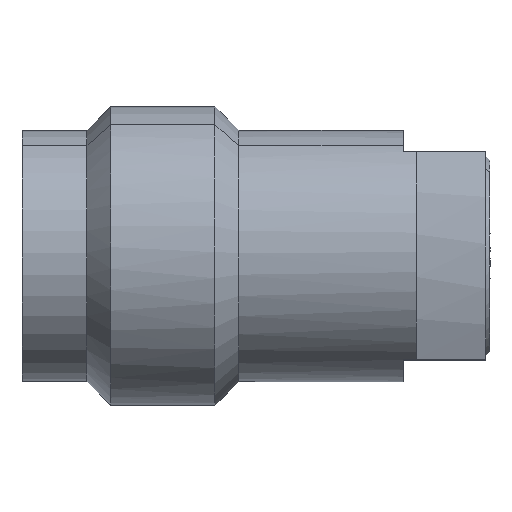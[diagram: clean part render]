
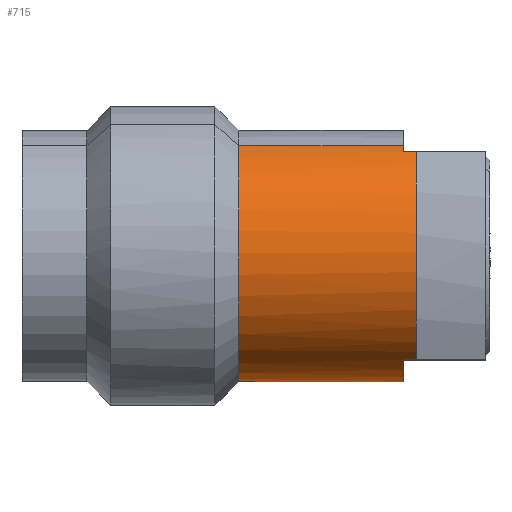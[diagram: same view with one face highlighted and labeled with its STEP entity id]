
A CAD part, top view. The second image highlights one B-rep face of the part: STEP entity #715.
In plain terms, the highlighted cylindrical face has radius 2.9 mm (diameter 5.8 mm), a partial arc.
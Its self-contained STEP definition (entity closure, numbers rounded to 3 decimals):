
#400=CARTESIAN_POINT('Vertex',(9.1,-2.4,1.628)) ;
#403=CARTESIAN_POINT('Line Origine',(8.95,-2.4,1.628)) ;
#407=CARTESIAN_POINT('Vertex',(8.8,-2.4,1.628)) ;
#447=CARTESIAN_POINT('Vertex',(8.8,-2.545,-1.39)) ;
#450=CARTESIAN_POINT('Line Origine',(7.333,-2.545,-1.39)) ;
#454=CARTESIAN_POINT('Vertex',(5.,-2.545,-1.39)) ;
#461=CARTESIAN_POINT('Vertex',(5.,2.545,1.39)) ;
#464=CARTESIAN_POINT('Line Origine',(7.333,2.545,1.39)) ;
#468=CARTESIAN_POINT('Vertex',(8.8,2.545,1.39)) ;
#505=CARTESIAN_POINT('Vertex',(8.8,2.4,1.628)) ;
#508=CARTESIAN_POINT('Line Origine',(8.95,2.4,1.628)) ;
#512=CARTESIAN_POINT('Vertex',(9.1,2.4,1.628)) ;
#658=CARTESIAN_POINT('Control Point',(9.1,2.4,1.628)) ;
#659=CARTESIAN_POINT('Control Point',(9.1,2.213,1.904)) ;
#660=CARTESIAN_POINT('Control Point',(9.1,1.986,2.153)) ;
#661=CARTESIAN_POINT('Control Point',(9.1,1.724,2.368)) ;
#662=CARTESIAN_POINT('Control Point',(9.1,1.146,2.716)) ;
#663=CARTESIAN_POINT('Control Point',(9.1,0.494,2.887)) ;
#664=CARTESIAN_POINT('Control Point',(9.1,0.158,2.925)) ;
#665=CARTESIAN_POINT('Control Point',(9.1,-0.516,2.902)) ;
#666=CARTESIAN_POINT('Control Point',(9.1,-1.156,2.691)) ;
#667=CARTESIAN_POINT('Control Point',(9.1,-1.459,2.54)) ;
#668=CARTESIAN_POINT('Control Point',(9.1,-1.843,2.272)) ;
#669=CARTESIAN_POINT('Control Point',(9.1,-2.164,1.937)) ;
#670=CARTESIAN_POINT('Control Point',(9.1,-2.249,1.838)) ;
#671=CARTESIAN_POINT('Control Point',(9.1,-2.327,1.735)) ;
#672=CARTESIAN_POINT('Control Point',(9.1,-2.4,1.628)) ;
#685=CARTESIAN_POINT('Axis2P3D Location',(7.333,0.,0.)) ;
#690=CARTESIAN_POINT('Axis2P3D Location',(8.8,0.,0.)) ;
#695=CARTESIAN_POINT('Axis2P3D Location',(5.,0.,0.)) ;
#700=CARTESIAN_POINT('Axis2P3D Location',(8.8,0.,0.)) ;
#404=DIRECTION('Vector Direction',(-1.,0.,0.)) ;
#451=DIRECTION('Vector Direction',(1.,0.,0.)) ;
#465=DIRECTION('Vector Direction',(1.,0.,0.)) ;
#509=DIRECTION('Vector Direction',(-1.,0.,0.)) ;
#686=DIRECTION('Axis2P3D Direction',(1.,0.,0.)) ;
#687=DIRECTION('Axis2P3D XDirection',(0.,0.878,0.479)) ;
#691=DIRECTION('Axis2P3D Direction',(1.,0.,0.)) ;
#696=DIRECTION('Axis2P3D Direction',(1.,0.,0.)) ;
#701=DIRECTION('Axis2P3D Direction',(1.,0.,0.)) ;
#688=AXIS2_PLACEMENT_3D('Cylinder Axis2P3D',#685,#686,#687) ;
#692=AXIS2_PLACEMENT_3D('Circle Axis2P3D',#690,#691,$) ;
#697=AXIS2_PLACEMENT_3D('Circle Axis2P3D',#695,#696,$) ;
#702=AXIS2_PLACEMENT_3D('Circle Axis2P3D',#700,#701,$) ;
#706=ORIENTED_EDGE('',*,*,#673,.F.) ;
#707=ORIENTED_EDGE('',*,*,#514,.T.) ;
#708=ORIENTED_EDGE('',*,*,#694,.F.) ;
#709=ORIENTED_EDGE('',*,*,#470,.F.) ;
#710=ORIENTED_EDGE('',*,*,#699,.T.) ;
#711=ORIENTED_EDGE('',*,*,#456,.T.) ;
#712=ORIENTED_EDGE('',*,*,#704,.F.) ;
#713=ORIENTED_EDGE('',*,*,#409,.F.) ;
#405=VECTOR('Line Direction',#404,1.) ;
#452=VECTOR('Line Direction',#451,1.) ;
#466=VECTOR('Line Direction',#465,1.) ;
#510=VECTOR('Line Direction',#509,1.) ;
#715=ADVANCED_FACE('',(#714),#689,.T.) ;
#657=B_SPLINE_CURVE_WITH_KNOTS('',5,(#658,#659,#660,#661,#662,#663,#664,#665,#666,#667,#668,#669,#670,#671,#672),.UNSPECIFIED.,.F.,.U.,(6,3,3,3,6),(0.,2.36,4.719,7.079,7.995),.UNSPECIFIED.) ;
#693=CIRCLE('generated circle',#692,2.9) ;
#698=CIRCLE('generated circle',#697,2.9) ;
#703=CIRCLE('generated circle',#702,2.9) ;
#689=CYLINDRICAL_SURFACE('generated cylinder',#688,2.9) ;
#409=EDGE_CURVE('',#401,#408,#406,.T.) ;
#456=EDGE_CURVE('',#455,#448,#453,.T.) ;
#470=EDGE_CURVE('',#462,#469,#467,.T.) ;
#514=EDGE_CURVE('',#513,#506,#511,.T.) ;
#673=EDGE_CURVE('',#513,#401,#657,.T.) ;
#694=EDGE_CURVE('',#469,#506,#693,.T.) ;
#699=EDGE_CURVE('',#462,#455,#698,.T.) ;
#704=EDGE_CURVE('',#408,#448,#703,.T.) ;
#705=EDGE_LOOP('',(#706,#707,#708,#709,#710,#711,#712,#713)) ;
#714=FACE_OUTER_BOUND('',#705,.T.) ;
#406=LINE('Line',#403,#405) ;
#453=LINE('Line',#450,#452) ;
#467=LINE('Line',#464,#466) ;
#511=LINE('Line',#508,#510) ;
#401=VERTEX_POINT('',#400) ;
#408=VERTEX_POINT('',#407) ;
#448=VERTEX_POINT('',#447) ;
#455=VERTEX_POINT('',#454) ;
#462=VERTEX_POINT('',#461) ;
#469=VERTEX_POINT('',#468) ;
#506=VERTEX_POINT('',#505) ;
#513=VERTEX_POINT('',#512) ;
